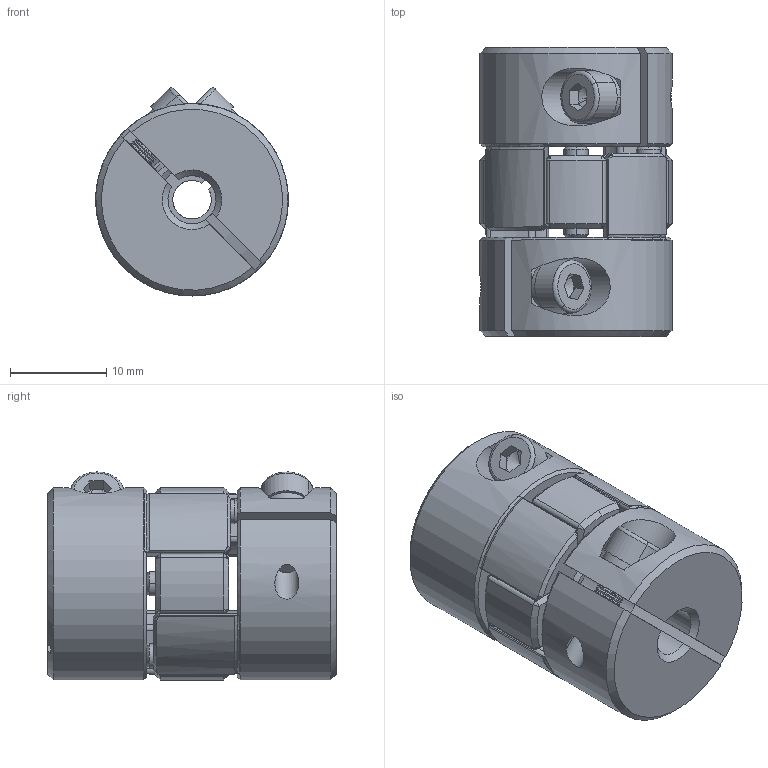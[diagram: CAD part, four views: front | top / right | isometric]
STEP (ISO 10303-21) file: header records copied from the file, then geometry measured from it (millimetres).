
FILE_DESCRIPTION (( 'STEP AP203' ), '1' );
FILE_NAME ('LF-B-D20L30-4-5.STEP', '2021-10-27T02:38:40', ( '' ), ( '' ), 'SwSTEP 2.0', 'SolidWorks 2018', '' );
FILE_SCHEMA (( 'CONFIG_CONTROL_DESIGN' ));
Length unit declared in the file: millimetre
Products named in the file (1): LF-B-D20L30-4-5
Bounding box: 20 x 30 x 21.62 mm (x, y, z)
Volume: 7962.1 mm3; surface area: 4897.6 mm2
Topology: 1 solids, 1 shells, 518 faces, 1253 edges, 691 vertices
Faces by surface type: cone 252, cylinder 192, plane 62, torus 12
Entity records: 15026 total; most frequent: CARTESIAN_POINT 2906, DIRECTION 2742, ORIENTED_EDGE 2426, EDGE_CURVE 1213, AXIS2_PLACEMENT_3D 1107, VERTEX_POINT 691, CIRCLE 588, EDGE_LOOP 546
